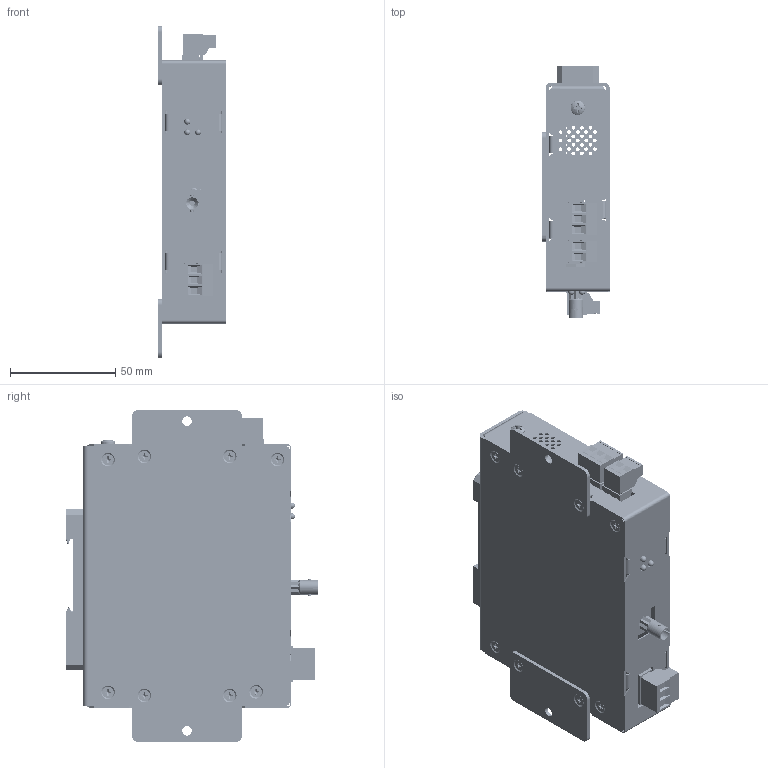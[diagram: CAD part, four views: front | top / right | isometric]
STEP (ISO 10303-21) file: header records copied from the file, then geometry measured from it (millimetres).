
FILE_DESCRIPTION(/* description */ ('STEP AP242','CAx-IF Rec.Pracs.---Representation and Presentation of Product Manufacturing Information (PMI)---4.0---2014-10-13','CAx-IF Rec.Pracs.---3D Tessellated Geometry---0.4---2014-09-14','2;1'),/* implementation_level */ '2;1');
FILE_NAME(/* name */ '618f06c6bbaff54bf59fda9d',/* time_stamp */ '2021-11-13T00:28:59+00:00',/* author */ (''),/* organization */ (''),/* preprocessor_version */ 'ST-DEVELOPER v18.1',/* originating_system */ ' ',/* authorisation */ ' ');
FILE_SCHEMA (('AP242_MANAGED_MODEL_BASED_3D_ENGINEERING_MIM_LF { 1 0 10303 442 1 1 4 }'));
Products named in the file (65): CD-396 - 1CD-XX-1 - Receiver-Wall Rev D; 96640A334_Black-Oxide 18-8 Stainless Steel Phillips Flat Head Screws; 96640A115_Black-Oxide 18-8 Stainless Steel Phillips Flat Head Screws; PRODUCT_NAME_1; H-105 Rear Housing <1>; 95185A130_Zinc-Plated Steel Press-Fit Nut for Sheet Metal; Part 1; 91772A144_Passivated 18-8 Stainless Steel Pan Head Phillips Screw; DINM12-RC-Assy <1>; DINM12-RC; spring^DINM12-RC-Assy; Spring clip; H-128-R - SINGLE CONTACT CLOSURE DIN FRONT COVER <1>; PCB-1CD-XX-1 -Transmitter <1>; C-796634-3; C-796634-2; Half 934MD; C-796638-3; HFBR-X41X <1>; HFBR-X41X Part4; HFBR-X41X Part3; HFBR-X41X Part2; HFBR-X41X Part1; C-796638-2
Assembly tree (105 placements, depth 4):
  CD-396 - 1CD-XX-1 - Receiver-Wall Rev D
    96640A334_Black-Oxide 18-8 Stainless Steel Phillips Flat Head Screws  x14
    96640A115_Black-Oxide 18-8 Stainless Steel Phillips Flat Head Screws  x3
    PRODUCT_NAME_1  x4
    H-105 Rear Housing <1>
      95185A130_Zinc-Plated Steel Press-Fit Nut for Sheet Metal  x3
      Part 1
    Part 1  x2
    91772A144_Passivated 18-8 Stainless Steel Pan Head Phillips Screw
    DINM12-RC-Assy <1>
      DINM12-RC
      spring^DINM12-RC-Assy
      spring^DINM12-RC-Assy
      Spring clip
    H-128-R - SINGLE CONTACT CLOSURE DIN FRONT COVER <1>
      PRODUCT_NAME_1  x10
      PRODUCT_NAME_1
      Part 1
    PCB-1CD-XX-1 -Transmitter <1>
      Part 1  x4
      C-796634-3  x2
      C-796634-2
      Half 934MD
      Part 1
      C-796638-3  x2
      Part 1
      HFBR-X41X <1>
        HFBR-X41X Part4
        HFBR-X41X Part3  x4
        HFBR-X41X Part2  x4
        HFBR-X41X Part4
        HFBR-X41X Part4
        HFBR-X41X Part4
        HFBR-X41X Part4
        HFBR-X41X Part4
        HFBR-X41X Part4
        HFBR-X41X Part4
        HFBR-X41X Part4
        HFBR-X41X Part4
        HFBR-X41X Part4
        HFBR-X41X Part4
        HFBR-X41X Part4
        HFBR-X41X Part4
        HFBR-X41X Part4
        HFBR-X41X Part1
        HFBR-X41X Part4
        HFBR-X41X Part4
        HFBR-X41X Part4
        HFBR-X41X Part4
        HFBR-X41X Part4
        HFBR-X41X Part4
        HFBR-X41X Part4
        HFBR-X41X Part4
        HFBR-X41X Part4
        HFBR-X41X Part4
        HFBR-X41X Part4
        HFBR-X41X Part4
        HFBR-X41X Part4
        HFBR-X41X Part4
        HFBR-X41X Part4
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Bounding box: 32.1 x 120.01 x 157.99 mm (x, y, z)
Volume: 93597.3 mm3; surface area: 126698.2 mm2
Topology: 99 solids, 100 shells, 4234 faces, 12102 edges, 8281 vertices
Faces by surface type: plane 2821, cylinder 1032, cone 222, bspline 118, torus 33, sphere 8
Full cylindrical faces by diameter (mm): 0.46 x8, 0.5 x2, 0.9 x4, 1.5 x2, 1.905 x143, 2.156 x14, 2.5 x1, 2.647 x1, 2.845 x112, 2.9 x3, 3.251 x18, 3.505 x24, 3.556 x3, 4 x11, 4.089 x4, 4.191 x10, 4.216 x14, 4.572 x2, 4.724 x1, 4.75 x1, 4.763 x3, 4.826 x3, 4.889 x10, 5.41 x8, 5.563 x13, 5.588 x10, 5.65 x1, 6.401 x1, 6.858 x1, 7 x1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
Entity records: 95815 total; most frequent: CARTESIAN_POINT 24833, ORIENTED_EDGE 13326, DIRECTION 12829, EDGE_CURVE 6665, VERTEX_POINT 4592, LINE 4541, VECTOR 4541, AXIS2_PLACEMENT_3D 4144
